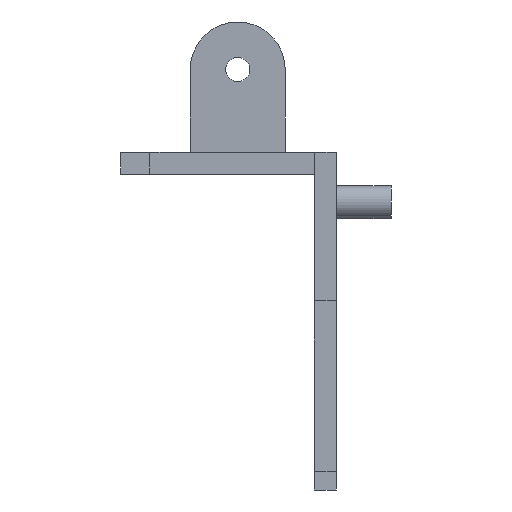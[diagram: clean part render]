
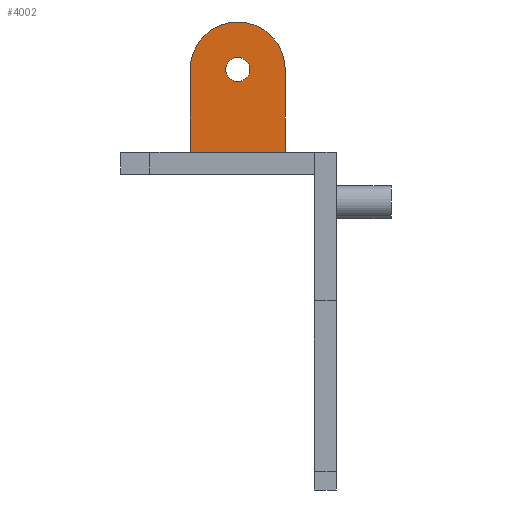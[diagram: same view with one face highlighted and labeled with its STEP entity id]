
A CAD part, front view. The second image highlights one B-rep face of the part: STEP entity #4002.
In plain terms, the highlighted planar face has unit normal (0, -1, 0).
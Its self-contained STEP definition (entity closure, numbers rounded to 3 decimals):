
#695 = PLANE('',#696);
#696 = AXIS2_PLACEMENT_3D('',#697,#698,#699);
#697 = CARTESIAN_POINT('',(21.,-16.,-22.65));
#698 = DIRECTION('',(0.,0.,-1.));
#699 = DIRECTION('',(0.,-1.,0.));
#2232 = VERTEX_POINT('',#2233);
#2233 = CARTESIAN_POINT('',(-13.,-26.5,-22.65));
#2247 = PLANE('',#2248);
#2248 = AXIS2_PLACEMENT_3D('',#2249,#2250,#2251);
#2249 = CARTESIAN_POINT('',(-13.,-26.5,-28.65));
#2250 = DIRECTION('',(1.,0.,0.));
#2251 = DIRECTION('',(0.,0.,1.));
#2258 = EDGE_CURVE('',#2259,#2232,#2261,.T.);
#2259 = VERTEX_POINT('',#2260);
#2260 = CARTESIAN_POINT('',(13.,-26.5,-22.65));
#2261 = SURFACE_CURVE('',#2262,(#2266,#2273),.PCURVE_S1.);
#2262 = LINE('',#2263,#2264);
#2263 = CARTESIAN_POINT('',(-18.5,-26.5,-22.65));
#2264 = VECTOR('',#2265,1.);
#2265 = DIRECTION('',(-1.,0.,0.));
#2266 = PCURVE('',#695,#2267);
#2267 = DEFINITIONAL_REPRESENTATION('',(#2268),#2272);
#2268 = LINE('',#2269,#2270);
#2269 = CARTESIAN_POINT('',(10.5,39.5));
#2270 = VECTOR('',#2271,1.);
#2271 = DIRECTION('',(0.,1.));
#2272 = ( GEOMETRIC_REPRESENTATION_CONTEXT(2) 
PARAMETRIC_REPRESENTATION_CONTEXT() REPRESENTATION_CONTEXT('2D SPACE',''
  ) );
#2273 = PCURVE('',#2274,#2279);
#2274 = PLANE('',#2275);
#2275 = AXIS2_PLACEMENT_3D('',#2276,#2277,#2278);
#2276 = CARTESIAN_POINT('',(-13.,-26.5,-28.65));
#2277 = DIRECTION('',(0.,1.,0.));
#2278 = DIRECTION('',(0.,0.,1.));
#2279 = DEFINITIONAL_REPRESENTATION('',(#2280),#2284);
#2280 = LINE('',#2281,#2282);
#2281 = CARTESIAN_POINT('',(6.,-5.5));
#2282 = VECTOR('',#2283,1.);
#2283 = DIRECTION('',(0.,-1.));
#2284 = ( GEOMETRIC_REPRESENTATION_CONTEXT(2) 
PARAMETRIC_REPRESENTATION_CONTEXT() REPRESENTATION_CONTEXT('2D SPACE',''
  ) );
#2302 = PLANE('',#2303);
#2303 = AXIS2_PLACEMENT_3D('',#2304,#2305,#2306);
#2304 = CARTESIAN_POINT('',(13.,-26.5,-28.65));
#2305 = DIRECTION('',(1.,0.,0.));
#2306 = DIRECTION('',(0.,0.,1.));
#3717 = CYLINDRICAL_SURFACE('',#3718,13.);
#3718 = AXIS2_PLACEMENT_3D('',#3719,#3720,#3721);
#3719 = CARTESIAN_POINT('',(0.,-26.5,0.));
#3720 = DIRECTION('',(0.,-1.,0.));
#3721 = DIRECTION('',(1.,0.,0.));
#3775 = CYLINDRICAL_SURFACE('',#3776,3.3);
#3776 = AXIS2_PLACEMENT_3D('',#3777,#3778,#3779);
#3777 = CARTESIAN_POINT('',(0.,-30.,0.));
#3778 = DIRECTION('',(0.,-1.,0.));
#3779 = DIRECTION('',(1.,0.,0.));
#3958 = EDGE_CURVE('',#2259,#3959,#3961,.T.);
#3959 = VERTEX_POINT('',#3960);
#3960 = CARTESIAN_POINT('',(13.,-26.5,0.));
#3961 = SURFACE_CURVE('',#3962,(#3966,#3973),.PCURVE_S1.);
#3962 = LINE('',#3963,#3964);
#3963 = CARTESIAN_POINT('',(13.,-26.5,-28.65));
#3964 = VECTOR('',#3965,1.);
#3965 = DIRECTION('',(0.,0.,1.));
#3966 = PCURVE('',#2302,#3967);
#3967 = DEFINITIONAL_REPRESENTATION('',(#3968),#3972);
#3968 = LINE('',#3969,#3970);
#3969 = CARTESIAN_POINT('',(0.,0.));
#3970 = VECTOR('',#3971,1.);
#3971 = DIRECTION('',(1.,0.));
#3972 = ( GEOMETRIC_REPRESENTATION_CONTEXT(2) 
PARAMETRIC_REPRESENTATION_CONTEXT() REPRESENTATION_CONTEXT('2D SPACE',''
  ) );
#3973 = PCURVE('',#2274,#3974);
#3974 = DEFINITIONAL_REPRESENTATION('',(#3975),#3979);
#3975 = LINE('',#3976,#3977);
#3976 = CARTESIAN_POINT('',(0.,26.));
#3977 = VECTOR('',#3978,1.);
#3978 = DIRECTION('',(1.,0.));
#3979 = ( GEOMETRIC_REPRESENTATION_CONTEXT(2) 
PARAMETRIC_REPRESENTATION_CONTEXT() REPRESENTATION_CONTEXT('2D SPACE',''
  ) );
#4002 = ADVANCED_FACE('',(#4003,#4052),#2274,.F.);
#4003 = FACE_BOUND('',#4004,.F.);
#4004 = EDGE_LOOP('',(#4005,#4006,#4007,#4030));
#4005 = ORIENTED_EDGE('',*,*,#3958,.F.);
#4006 = ORIENTED_EDGE('',*,*,#2258,.T.);
#4007 = ORIENTED_EDGE('',*,*,#4008,.T.);
#4008 = EDGE_CURVE('',#2232,#4009,#4011,.T.);
#4009 = VERTEX_POINT('',#4010);
#4010 = CARTESIAN_POINT('',(-13.,-26.5,0.));
#4011 = SURFACE_CURVE('',#4012,(#4016,#4023),.PCURVE_S1.);
#4012 = LINE('',#4013,#4014);
#4013 = CARTESIAN_POINT('',(-13.,-26.5,-28.65));
#4014 = VECTOR('',#4015,1.);
#4015 = DIRECTION('',(0.,0.,1.));
#4016 = PCURVE('',#2274,#4017);
#4017 = DEFINITIONAL_REPRESENTATION('',(#4018),#4022);
#4018 = LINE('',#4019,#4020);
#4019 = CARTESIAN_POINT('',(0.,0.));
#4020 = VECTOR('',#4021,1.);
#4021 = DIRECTION('',(1.,0.));
#4022 = ( GEOMETRIC_REPRESENTATION_CONTEXT(2) 
PARAMETRIC_REPRESENTATION_CONTEXT() REPRESENTATION_CONTEXT('2D SPACE',''
  ) );
#4023 = PCURVE('',#2247,#4024);
#4024 = DEFINITIONAL_REPRESENTATION('',(#4025),#4029);
#4025 = LINE('',#4026,#4027);
#4026 = CARTESIAN_POINT('',(0.,0.));
#4027 = VECTOR('',#4028,1.);
#4028 = DIRECTION('',(1.,0.));
#4029 = ( GEOMETRIC_REPRESENTATION_CONTEXT(2) 
PARAMETRIC_REPRESENTATION_CONTEXT() REPRESENTATION_CONTEXT('2D SPACE',''
  ) );
#4030 = ORIENTED_EDGE('',*,*,#4031,.T.);
#4031 = EDGE_CURVE('',#4009,#3959,#4032,.T.);
#4032 = SURFACE_CURVE('',#4033,(#4038,#4045),.PCURVE_S1.);
#4033 = CIRCLE('',#4034,13.);
#4034 = AXIS2_PLACEMENT_3D('',#4035,#4036,#4037);
#4035 = CARTESIAN_POINT('',(0.,-26.5,0.));
#4036 = DIRECTION('',(-0.,1.,0.));
#4037 = DIRECTION('',(1.,0.,0.));
#4038 = PCURVE('',#2274,#4039);
#4039 = DEFINITIONAL_REPRESENTATION('',(#4040),#4044);
#4040 = CIRCLE('',#4041,13.);
#4041 = AXIS2_PLACEMENT_2D('',#4042,#4043);
#4042 = CARTESIAN_POINT('',(28.65,13.));
#4043 = DIRECTION('',(0.,1.));
#4044 = ( GEOMETRIC_REPRESENTATION_CONTEXT(2) 
PARAMETRIC_REPRESENTATION_CONTEXT() REPRESENTATION_CONTEXT('2D SPACE',''
  ) );
#4045 = PCURVE('',#3717,#4046);
#4046 = DEFINITIONAL_REPRESENTATION('',(#4047),#4051);
#4047 = LINE('',#4048,#4049);
#4048 = CARTESIAN_POINT('',(-0.,0.));
#4049 = VECTOR('',#4050,1.);
#4050 = DIRECTION('',(-1.,0.));
#4051 = ( GEOMETRIC_REPRESENTATION_CONTEXT(2) 
PARAMETRIC_REPRESENTATION_CONTEXT() REPRESENTATION_CONTEXT('2D SPACE',''
  ) );
#4052 = FACE_BOUND('',#4053,.F.);
#4053 = EDGE_LOOP('',(#4054));
#4054 = ORIENTED_EDGE('',*,*,#4055,.T.);
#4055 = EDGE_CURVE('',#4056,#4056,#4058,.T.);
#4056 = VERTEX_POINT('',#4057);
#4057 = CARTESIAN_POINT('',(3.3,-26.5,0.));
#4058 = SURFACE_CURVE('',#4059,(#4064,#4075),.PCURVE_S1.);
#4059 = CIRCLE('',#4060,3.3);
#4060 = AXIS2_PLACEMENT_3D('',#4061,#4062,#4063);
#4061 = CARTESIAN_POINT('',(0.,-26.5,0.));
#4062 = DIRECTION('',(0.,-1.,0.));
#4063 = DIRECTION('',(1.,0.,0.));
#4064 = PCURVE('',#2274,#4065);
#4065 = DEFINITIONAL_REPRESENTATION('',(#4066),#4074);
#4066 = ( BOUNDED_CURVE() B_SPLINE_CURVE(2,(#4067,#4068,#4069,#4070,
#4071,#4072,#4073),.UNSPECIFIED.,.T.,.F.) B_SPLINE_CURVE_WITH_KNOTS((1,2
    ,2,2,2,1),(-2.094,0.,2.094,4.189,
6.283,8.378),.UNSPECIFIED.) CURVE() 
GEOMETRIC_REPRESENTATION_ITEM() RATIONAL_B_SPLINE_CURVE((1.,0.5,1.,0.5,
1.,0.5,1.)) REPRESENTATION_ITEM('') );
#4067 = CARTESIAN_POINT('',(28.65,16.3));
#4068 = CARTESIAN_POINT('',(34.366,16.3));
#4069 = CARTESIAN_POINT('',(31.508,11.35));
#4070 = CARTESIAN_POINT('',(28.65,6.4));
#4071 = CARTESIAN_POINT('',(25.792,11.35));
#4072 = CARTESIAN_POINT('',(22.934,16.3));
#4073 = CARTESIAN_POINT('',(28.65,16.3));
#4074 = ( GEOMETRIC_REPRESENTATION_CONTEXT(2) 
PARAMETRIC_REPRESENTATION_CONTEXT() REPRESENTATION_CONTEXT('2D SPACE',''
  ) );
#4075 = PCURVE('',#3775,#4076);
#4076 = DEFINITIONAL_REPRESENTATION('',(#4077),#4081);
#4077 = LINE('',#4078,#4079);
#4078 = CARTESIAN_POINT('',(-6.283,-3.5));
#4079 = VECTOR('',#4080,1.);
#4080 = DIRECTION('',(1.,-0.));
#4081 = ( GEOMETRIC_REPRESENTATION_CONTEXT(2) 
PARAMETRIC_REPRESENTATION_CONTEXT() REPRESENTATION_CONTEXT('2D SPACE',''
  ) );
